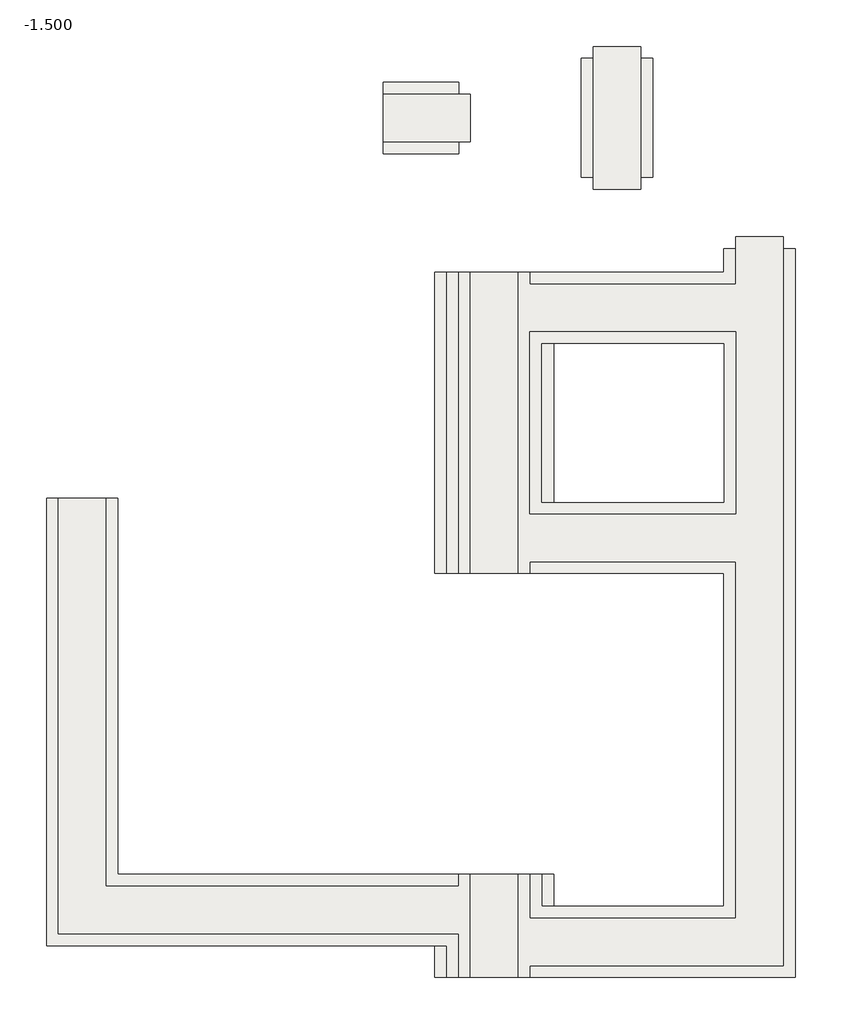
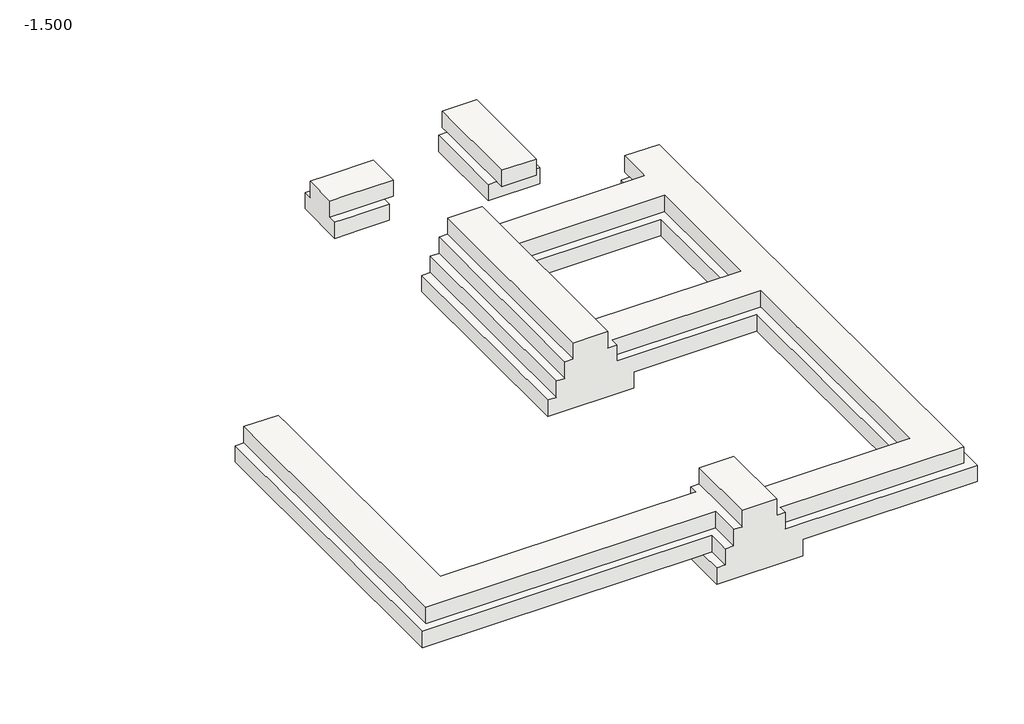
# One storey: 1 slab.
"""IFC4 building model written with IfcOpenShell, lengths in millimetres."""

from ifc_helpers import new_model, si_unit, origin, place, context, project, spatial, transform, mapped, element, save
from components import slab_1_1_1_ae598076

model = new_model("IFC4")

# Units and contexts
model_context = context("Model", 3, world=origin())
ifc_project = project(units=[si_unit("LENGTHUNIT", "METRE", prefix="MILLI")], contexts=[model_context])

# Site, building, storey
site = spatial("IfcSite", under=ifc_project)
building = spatial("IfcBuilding", under=site)
storey = spatial("IfcBuildingStorey", under=building, Name="-1.500", Elevation=-1500.0)

# Slab
placement = place(None, origin())
slab_1_1_1_shape = slab_1_1_1_ae598076(model_context)
element("IfcSlab", 1, ObjectType="1 : 1-1", at=placement, inside=storey, context=model_context, shape_type="MappedRepresentation", body=[
    mapped(slab_1_1_1_shape, transform((0.0, 0.0, 0.0), x_axis=(1.0, 0.0, 0.0), y_axis=(0.0, 1.0, 0.0), z_axis=(0.0, 0.0, 1.0))),
])

save(model, "model.ifc")
